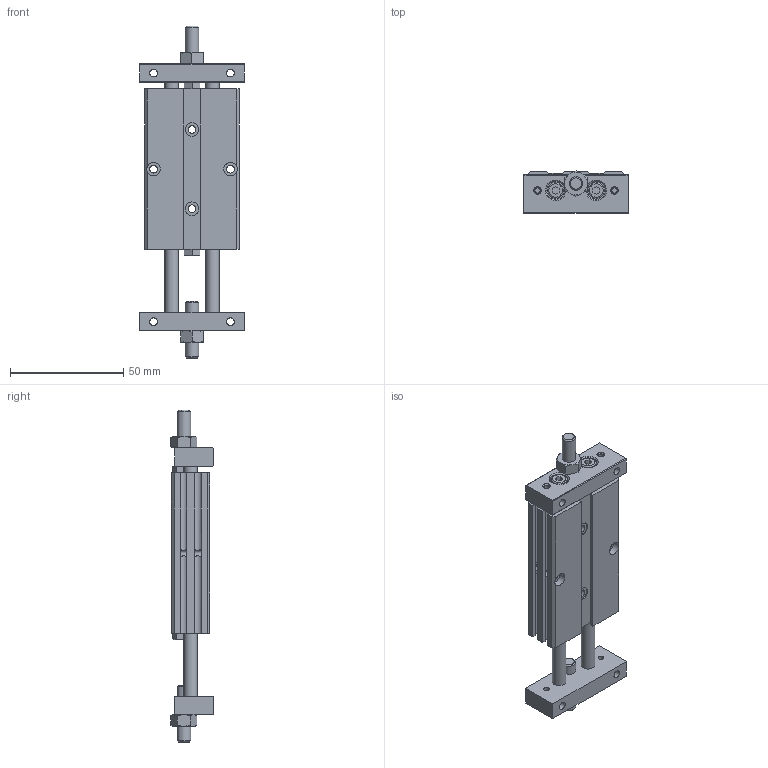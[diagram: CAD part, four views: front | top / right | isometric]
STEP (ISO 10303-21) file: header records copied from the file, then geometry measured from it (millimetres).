
FILE_DESCRIPTION((''),'2;1');
FILE_NAME('J:\3D電子目錄\氣缸\STU\STU\STU10\STU10x25.stp','2009-01-08T10:51:42',('EPM'),(''),'Autodesk Inventor 2008','Autodesk Inventor 2008','');
FILE_SCHEMA(('AUTOMOTIVE_DESIGN { 1 0 10303 214 1 1 1 1 }'));
Length unit declared in the file: millimetre
Products named in the file (1): STU10
Bounding box: 46 x 18.77 x 146.8 mm (x, y, z)
Volume: 57705.6 mm3; surface area: 22432 mm2
Topology: 1 solids, 1 shells, 266 faces, 648 edges, 414 vertices
Faces by surface type: plane 134, cone 52, bspline 50, cylinder 26, torus 4
Full cylindrical faces by diameter (mm): 2 x2, 6 x10, 7 x4, 8 x4, 12 x2, 13 x2
Entity records: 8188 total; most frequent: CARTESIAN_POINT 2601, DIRECTION 1074, ORIENTED_EDGE 1066, EDGE_CURVE 533, EDGE_LOOP 428, AXIS2_PLACEMENT_3D 402, VERTEX_POINT 389, VECTOR 270
